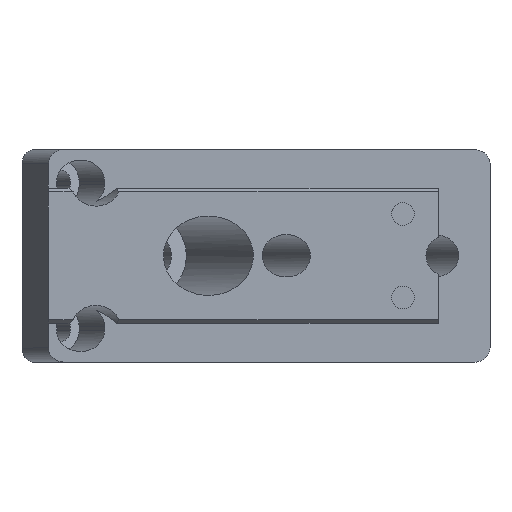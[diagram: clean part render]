
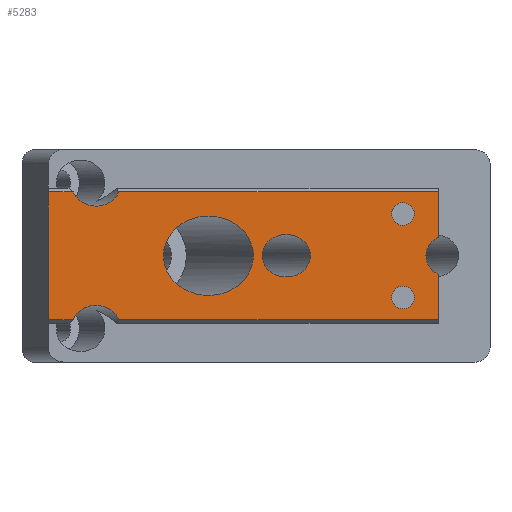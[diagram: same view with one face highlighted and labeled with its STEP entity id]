
A CAD part, top view. The second image highlights one B-rep face of the part: STEP entity #5283.
In plain terms, the highlighted planar face has unit normal (0, 0, 1).
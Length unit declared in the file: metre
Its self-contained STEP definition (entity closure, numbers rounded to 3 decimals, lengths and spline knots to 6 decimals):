
#294=ELLIPSE('',#5616,0.006342,0.0056);
#295=ELLIPSE('',#5617,0.003398,0.003);
#296=ELLIPSE('',#5620,0.003398,0.003);
#297=ELLIPSE('',#5621,0.003398,0.003);
#298=ELLIPSE('',#5622,0.003398,0.003);
#403=CIRCLE('',#5618,0.0016);
#404=CIRCLE('',#5619,0.0016);
#542=ORIENTED_EDGE('',*,*,#2170,.T.);
#543=ORIENTED_EDGE('',*,*,#2171,.T.);
#544=ORIENTED_EDGE('',*,*,#2172,.T.);
#545=ORIENTED_EDGE('',*,*,#2173,.T.);
#546=ORIENTED_EDGE('',*,*,#2174,.F.);
#547=ORIENTED_EDGE('',*,*,#2175,.T.);
#548=ORIENTED_EDGE('',*,*,#2176,.T.);
#549=ORIENTED_EDGE('',*,*,#2177,.T.);
#550=ORIENTED_EDGE('',*,*,#2178,.F.);
#551=ORIENTED_EDGE('',*,*,#2179,.T.);
#552=ORIENTED_EDGE('',*,*,#2180,.F.);
#553=ORIENTED_EDGE('',*,*,#2181,.T.);
#554=ORIENTED_EDGE('',*,*,#2182,.F.);
#555=ORIENTED_EDGE('',*,*,#2183,.T.);
#2170=EDGE_CURVE('',#2984,#2984,#294,.T.);
#2171=EDGE_CURVE('',#2985,#2985,#295,.T.);
#2172=EDGE_CURVE('',#2986,#2986,#403,.T.);
#2173=EDGE_CURVE('',#2987,#2987,#404,.T.);
#2174=EDGE_CURVE('',#2988,#2989,#296,.F.);
#2175=EDGE_CURVE('',#2988,#2990,#3512,.T.);
#2176=EDGE_CURVE('',#2990,#2991,#3513,.T.);
#2177=EDGE_CURVE('',#2991,#2992,#3514,.T.);
#2178=EDGE_CURVE('',#2993,#2992,#297,.F.);
#2179=EDGE_CURVE('',#2993,#2994,#3515,.T.);
#2180=EDGE_CURVE('',#2995,#2994,#3516,.T.);
#2181=EDGE_CURVE('',#2995,#2996,#298,.T.);
#2182=EDGE_CURVE('',#2997,#2996,#3517,.T.);
#2183=EDGE_CURVE('',#2997,#2989,#3518,.T.);
#2984=VERTEX_POINT('',#7213);
#2985=VERTEX_POINT('',#7215);
#2986=VERTEX_POINT('',#7217);
#2987=VERTEX_POINT('',#7219);
#2988=VERTEX_POINT('',#7221);
#2989=VERTEX_POINT('',#7222);
#2990=VERTEX_POINT('',#7224);
#2991=VERTEX_POINT('',#7226);
#2992=VERTEX_POINT('',#7228);
#2993=VERTEX_POINT('',#7230);
#2994=VERTEX_POINT('',#7232);
#2995=VERTEX_POINT('',#7234);
#2996=VERTEX_POINT('',#7236);
#2997=VERTEX_POINT('',#7238);
#3512=LINE('',#7223,#3995);
#3513=LINE('',#7225,#3996);
#3514=LINE('',#7227,#3997);
#3515=LINE('',#7231,#3998);
#3516=LINE('',#7233,#3999);
#3517=LINE('',#7237,#4000);
#3518=LINE('',#7239,#4001);
#3995=VECTOR('',#6022,1.);
#3996=VECTOR('',#6023,1.);
#3997=VECTOR('',#6024,1.);
#3998=VECTOR('',#6027,1.);
#3999=VECTOR('',#6028,1.);
#4000=VECTOR('',#6031,1.);
#4001=VECTOR('',#6032,1.);
#4465=EDGE_LOOP('',(#542));
#4466=EDGE_LOOP('',(#543));
#4467=EDGE_LOOP('',(#544));
#4468=EDGE_LOOP('',(#545));
#4469=EDGE_LOOP('',(#546,#547,#548,#549,#550,#551,#552,#553,#554,#555));
#4806=FACE_BOUND('',#4465,.T.);
#4807=FACE_BOUND('',#4466,.T.);
#4808=FACE_BOUND('',#4467,.T.);
#4809=FACE_BOUND('',#4468,.T.);
#4810=FACE_BOUND('',#4469,.T.);
#5139=PLANE('',#5615);
#5283=ADVANCED_FACE('',(#4806,#4807,#4808,#4809,#4810),#5139,.F.);
#5615=AXIS2_PLACEMENT_3D('',#7211,#6010,#6011);
#5616=AXIS2_PLACEMENT_3D('',#7212,#6012,#6013);
#5617=AXIS2_PLACEMENT_3D('',#7214,#6014,#6015);
#5618=AXIS2_PLACEMENT_3D('',#7216,#6016,#6017);
#5619=AXIS2_PLACEMENT_3D('',#7218,#6018,#6019);
#5620=AXIS2_PLACEMENT_3D('',#7220,#6020,#6021);
#5621=AXIS2_PLACEMENT_3D('',#7229,#6025,#6026);
#5622=AXIS2_PLACEMENT_3D('',#7235,#6029,#6030);
#6010=DIRECTION('',(0.,0.,-1.));
#6011=DIRECTION('',(-1.,0.,0.));
#6012=DIRECTION('',(0.,0.,-1.));
#6013=DIRECTION('',(-1.,0.,0.));
#6014=DIRECTION('',(0.,0.,-1.));
#6015=DIRECTION('',(-1.,0.,0.));
#6016=DIRECTION('',(0.,0.,-1.));
#6017=DIRECTION('',(-1.,0.,0.));
#6018=DIRECTION('',(0.,0.,-1.));
#6019=DIRECTION('',(-1.,0.,0.));
#6020=DIRECTION('',(0.,0.,-1.));
#6021=DIRECTION('',(-1.,0.,0.));
#6022=DIRECTION('',(-1.,0.,0.));
#6023=DIRECTION('',(0.,-1.,0.));
#6024=DIRECTION('',(1.,0.,0.));
#6025=DIRECTION('',(0.,0.,-1.));
#6026=DIRECTION('',(-1.,0.,0.));
#6027=DIRECTION('',(1.,0.,0.));
#6028=DIRECTION('',(0.,-1.,0.));
#6029=DIRECTION('',(0.,0.,-1.));
#6030=DIRECTION('',(-1.,0.,0.));
#6031=DIRECTION('',(0.,-1.,0.));
#6032=DIRECTION('',(-1.,0.,0.));
#7211=CARTESIAN_POINT('',(0.055,0.,0.0041));
#7212=CARTESIAN_POINT('',(0.022566,0.,0.0041));
#7213=CARTESIAN_POINT('',(0.016224,0.,0.0041));
#7214=CARTESIAN_POINT('',(0.033552,0.,0.0041));
#7215=CARTESIAN_POINT('',(0.030154,0.,0.0041));
#7216=CARTESIAN_POINT('',(0.05,0.0059,0.0041));
#7217=CARTESIAN_POINT('',(0.0484,0.0059,0.0041));
#7218=CARTESIAN_POINT('',(0.05,-0.0059,0.0041));
#7219=CARTESIAN_POINT('',(0.0484,-0.0059,0.0041));
#7220=CARTESIAN_POINT('',(0.00671,0.01,0.0041));
#7221=CARTESIAN_POINT('',(0.003505,0.009004,0.0041));
#7222=CARTESIAN_POINT('',(0.009915,0.009004,0.0041));
#7223=CARTESIAN_POINT('',(0.,0.009004,0.0041));
#7224=CARTESIAN_POINT('',(0.,0.009004,0.0041));
#7225=CARTESIAN_POINT('',(0.,0.,0.0041));
#7226=CARTESIAN_POINT('',(0.,-0.009004,0.0041));
#7227=CARTESIAN_POINT('',(0.055,-0.009004,0.0041));
#7228=CARTESIAN_POINT('',(0.003505,-0.009004,0.0041));
#7229=CARTESIAN_POINT('',(0.00671,-0.01,0.0041));
#7230=CARTESIAN_POINT('',(0.009915,-0.009004,0.0041));
#7231=CARTESIAN_POINT('',(0.055,-0.009004,0.0041));
#7232=CARTESIAN_POINT('',(0.055,-0.009004,0.0041));
#7233=CARTESIAN_POINT('',(0.055,0.,0.0041));
#7234=CARTESIAN_POINT('',(0.055,-0.002619,0.0041));
#7235=CARTESIAN_POINT('',(0.056657,0.,0.0041));
#7236=CARTESIAN_POINT('',(0.055,0.002619,0.0041));
#7237=CARTESIAN_POINT('',(0.055,0.,0.0041));
#7238=CARTESIAN_POINT('',(0.055,0.009004,0.0041));
#7239=CARTESIAN_POINT('',(0.,0.009004,0.0041));
